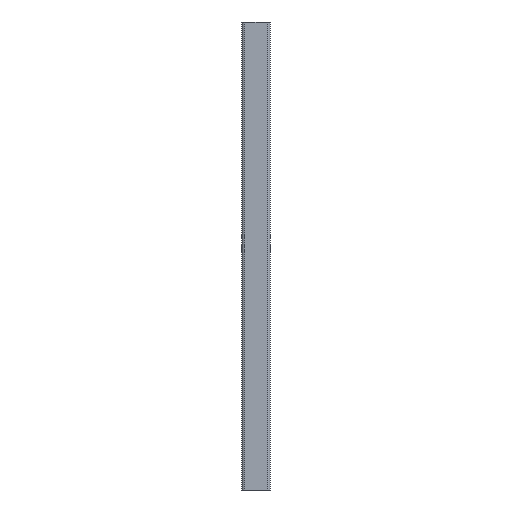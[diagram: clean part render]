
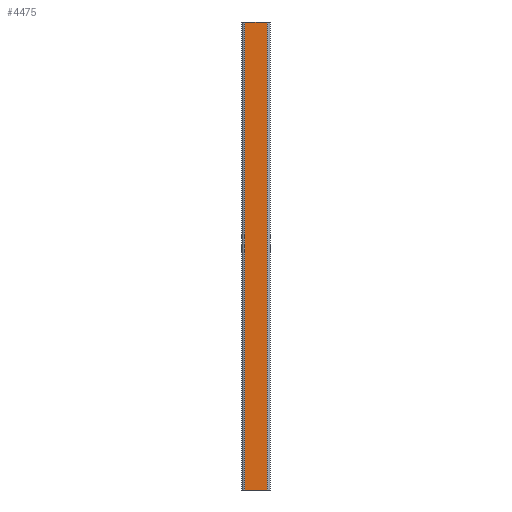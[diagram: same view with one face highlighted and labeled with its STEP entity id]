
A CAD part, front view. The second image highlights one B-rep face of the part: STEP entity #4475.
In plain terms, the highlighted planar face has unit normal (0, -1, 0).
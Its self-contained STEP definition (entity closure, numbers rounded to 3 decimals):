
#369 = CARTESIAN_POINT ( 'NONE',  ( -15054.515, -12543.606, 500. ) ) ;
#908 = CARTESIAN_POINT ( 'NONE',  ( -15054.515, -12543.606, 0. ) ) ;
#1005 = DIRECTION ( 'NONE',  ( 1., 0., 0. ) ) ;
#1006 = VECTOR ( 'NONE', #1005, 1000. ) ;
#1007 = CARTESIAN_POINT ( 'NONE',  ( -15078.515, -12543.606, 0. ) ) ;
#1010 = LINE ( 'NONE', #1007, #1006 ) ;
#1054 = CARTESIAN_POINT ( 'NONE',  ( -15078.515, -12543.606, 0. ) ) ;
#1497 = FACE_OUTER_BOUND ( 'NONE', #4457, .T. ) ;
#1504 = DIRECTION ( 'NONE',  ( 0., 0., -1. ) ) ;
#1505 = VECTOR ( 'NONE', #1504, 1000. ) ;
#1507 = DIRECTION ( 'NONE',  ( -1., 0., 0. ) ) ;
#1508 = DIRECTION ( 'NONE',  ( 0., 1., 0. ) ) ;
#1509 = CARTESIAN_POINT ( 'NONE',  ( -15078.515, -12543.606, 500. ) ) ;
#1523 = CARTESIAN_POINT ( 'NONE',  ( -15054.515, -12543.606, 500. ) ) ;
#1524 = LINE ( 'NONE', #1523, #1505 ) ;
#1556 = PLANE ( 'NONE',  #1567 ) ;
#1567 = AXIS2_PLACEMENT_3D ( 'NONE', #1509, #1508, #1507 ) ;
#1591 = CARTESIAN_POINT ( 'NONE',  ( -15078.515, -12543.606, 500. ) ) ;
#1592 = LINE ( 'NONE', #1591, #1658 ) ;
#1605 = DIRECTION ( 'NONE',  ( 0., 0., -1. ) ) ;
#1658 = VECTOR ( 'NONE', #1605, 1000. ) ;
#1943 = CARTESIAN_POINT ( 'NONE',  ( -15078.515, -12543.606, 500. ) ) ;
#1953 = DIRECTION ( 'NONE',  ( 1., 0., 0. ) ) ;
#1954 = VECTOR ( 'NONE', #1953, 1000. ) ;
#1955 = CARTESIAN_POINT ( 'NONE',  ( -15078.515, -12543.606, 500. ) ) ;
#1956 = LINE ( 'NONE', #1955, #1954 ) ;
#3555 = VERTEX_POINT ( 'NONE', #1943 ) ;
#3568 = EDGE_CURVE ( 'NONE', #3555, #3717, #1956, .T. ) ;
#3717 = VERTEX_POINT ( 'NONE', #369 ) ;
#4122 = VERTEX_POINT ( 'NONE', #908 ) ;
#4123 = EDGE_CURVE ( 'NONE', #4231, #4122, #1010, .T. ) ;
#4231 = VERTEX_POINT ( 'NONE', #1054 ) ;
#4457 = EDGE_LOOP ( 'NONE', ( #4479, #4458, #4509, #4549 ) ) ;
#4458 = ORIENTED_EDGE ( 'NONE', *, *, #4478, .F. ) ;
#4475 = ADVANCED_FACE ( 'NONE', ( #1497 ), #1556, .F. ) ;
#4478 = EDGE_CURVE ( 'NONE', #3717, #4122, #1524, .T. ) ;
#4479 = ORIENTED_EDGE ( 'NONE', *, *, #4123, .T. ) ;
#4509 = ORIENTED_EDGE ( 'NONE', *, *, #3568, .F. ) ;
#4549 = ORIENTED_EDGE ( 'NONE', *, *, #4574, .T. ) ;
#4574 = EDGE_CURVE ( 'NONE', #3555, #4231, #1592, .T. ) ;
